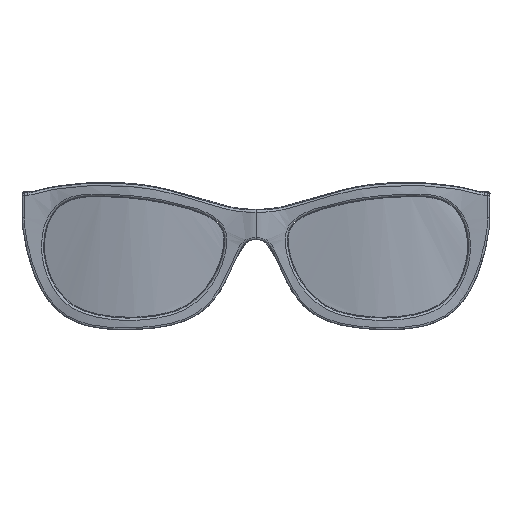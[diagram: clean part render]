
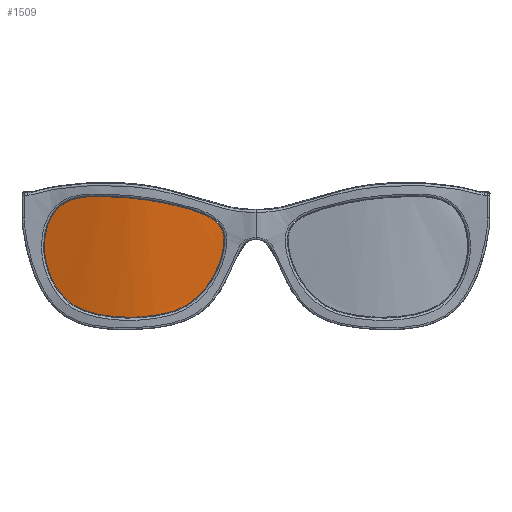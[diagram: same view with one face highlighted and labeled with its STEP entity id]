
A CAD part, front view. The second image highlights one B-rep face of the part: STEP entity #1509.
In plain terms, the highlighted free-form (B-spline) face has degree [3, 1] with [16, 2] control points.
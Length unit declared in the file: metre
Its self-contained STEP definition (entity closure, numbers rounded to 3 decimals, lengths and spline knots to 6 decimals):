
#148=ORIENTED_EDGE('',*,*,#626,.T.);
#626=EDGE_CURVE('',#866,#866,#1006,.T.);
#866=VERTEX_POINT('',#2133);
#1006=B_SPLINE_CURVE_WITH_KNOTS('',3,(#2088,#2089,#2090,#2091,#2092,#2093,
#2094,#2095,#2096,#2097,#2098,#2099,#2100,#2101,#2102,#2103,#2104,#2105,
#2106,#2107,#2108,#2109,#2110,#2111,#2112,#2113,#2114,#2115,#2116,#2117,
#2118,#2119,#2120,#2121,#2122,#2123,#2124,#2125,#2126,#2127,#2128,#2129,
#2130,#2131,#2132),.UNSPECIFIED.,.T.,.F.,(1,1,1,1,1,1,1,1,1,1,1,1,1,1,1,
1,1,1,1,1,1,1,1,1,1,1,1,1,1,1,1,1,1,1,1,1,1,1,1,1,1,1,1,1,1,1,1,1,1),(-0.00858,
-0.00429,-0.002145,0.,0.002145,0.00429,
0.006435,0.00858,0.010725,0.01287,
0.01716,0.02145,0.02574,0.03003,
0.03432,0.03861,0.0429,0.047189,
0.051479,0.053624,0.055769,0.057914,
0.060059,0.062204,0.064349,0.068639,
0.072929,0.075074,0.077219,0.081509,
0.083654,0.085799,0.090089,0.094379,
0.098669,0.102959,0.107249,0.111539,
0.115829,0.120119,0.122264,0.124409,
0.128699,0.132989,0.135133,0.137278,
0.139423,0.141568,0.143713),.UNSPECIFIED.);
#1210=EDGE_LOOP('',(#148));
#1340=FACE_BOUND('',#1210,.T.);
#1469=B_SPLINE_SURFACE_WITH_KNOTS('',3,1,((#2179,#2180),(#2181,#2182),(#2183,
#2184),(#2185,#2186),(#2187,#2188),(#2189,#2190),(#2191,#2192),(#2193,#2194),
(#2195,#2196),(#2197,#2198),(#2199,#2200),(#2201,#2202),(#2203,#2204),(#2205,
#2206),(#2207,#2208),(#2209,#2210)),.SURF_OF_LINEAR_EXTRUSION.,.F.,.F.,
 .F.,(4,1,1,1,1,1,1,1,1,1,1,1,1,4),(2,2),(0.140021,0.230871,
0.321721,0.367147,0.412572,0.457997,
0.503422,0.594272,0.639697,0.685123,
0.730548,0.775973,0.821398,0.866823),
(0.,1.),.UNSPECIFIED.);
#1509=ADVANCED_FACE('',(#1340),#1469,.F.);
#2088=CARTESIAN_POINT('',(-0.009371,0.002476,-0.003452));
#2089=CARTESIAN_POINT('',(-0.009037,0.002254,-0.001274));
#2090=CARTESIAN_POINT('',(-0.008977,0.002031,0.000854));
#2091=CARTESIAN_POINT('',(-0.009467,0.001798,0.00299));
#2092=CARTESIAN_POINT('',(-0.010731,0.001558,0.004783));
#2093=CARTESIAN_POINT('',(-0.012484,0.001298,0.006073));
#2094=CARTESIAN_POINT('',(-0.014363,0.001021,0.007061));
#2095=CARTESIAN_POINT('',(-0.017005,0.000632,0.008145));
#2096=CARTESIAN_POINT('',(-0.020406,0.000161,0.009178));
#2097=CARTESIAN_POINT('',(-0.024531,-0.000341,0.010132));
#2098=CARTESIAN_POINT('',(-0.028704,-0.000733,0.010914));
#2099=CARTESIAN_POINT('',(-0.032922,-0.000878,0.011512));
#2100=CARTESIAN_POINT('',(-0.037223,-0.000614,0.011921));
#2101=CARTESIAN_POINT('',(-0.041509,-0.000003,0.012157));
#2102=CARTESIAN_POINT('',(-0.045795,0.000708,0.012245));
#2103=CARTESIAN_POINT('',(-0.049987,0.001578,0.011866));
#2104=CARTESIAN_POINT('',(-0.053314,0.002697,0.01074));
#2105=CARTESIAN_POINT('',(-0.05554,0.003502,0.008988));
#2106=CARTESIAN_POINT('',(-0.056883,0.003974,0.007347));
#2107=CARTESIAN_POINT('',(-0.057939,0.00433,0.005449));
#2108=CARTESIAN_POINT('',(-0.058672,0.004611,0.003434));
#2109=CARTESIAN_POINT('',(-0.059145,0.004866,0.001303));
#2110=CARTESIAN_POINT('',(-0.059437,0.005179,-0.001537));
#2111=CARTESIAN_POINT('',(-0.059207,0.005551,-0.005173));
#2112=CARTESIAN_POINT('',(-0.05827,0.005855,-0.008641));
#2113=CARTESIAN_POINT('',(-0.0571,0.00597,-0.011316));
#2114=CARTESIAN_POINT('',(-0.055703,0.005949,-0.013829));
#2115=CARTESIAN_POINT('',(-0.053874,0.005679,-0.01613));
#2116=CARTESIAN_POINT('',(-0.051687,0.005217,-0.017912));
#2117=CARTESIAN_POINT('',(-0.049214,0.004717,-0.019383));
#2118=CARTESIAN_POINT('',(-0.045846,0.004164,-0.020569));
#2119=CARTESIAN_POINT('',(-0.041606,0.003539,-0.021384));
#2120=CARTESIAN_POINT('',(-0.037352,0.002942,-0.02176));
#2121=CARTESIAN_POINT('',(-0.033072,0.002617,-0.021726));
#2122=CARTESIAN_POINT('',(-0.028726,0.002647,-0.021281));
#2123=CARTESIAN_POINT('',(-0.024472,0.002882,-0.020482));
#2124=CARTESIAN_POINT('',(-0.020339,0.003128,-0.018976));
#2125=CARTESIAN_POINT('',(-0.017367,0.003225,-0.016906));
#2126=CARTESIAN_POINT('',(-0.015284,0.003229,-0.014857));
#2127=CARTESIAN_POINT('',(-0.013437,0.003183,-0.012655));
#2128=CARTESIAN_POINT('',(-0.011481,0.003022,-0.009568));
#2129=CARTESIAN_POINT('',(-0.010101,0.002745,-0.00624));
#2130=CARTESIAN_POINT('',(-0.009371,0.002476,-0.003452));
#2131=CARTESIAN_POINT('',(-0.009037,0.002254,-0.001274));
#2132=CARTESIAN_POINT('',(-0.008977,0.002031,0.000854));
#2133=CARTESIAN_POINT('',(-0.009083,0.002254,-0.001283));
#2179=CARTESIAN_POINT('',(-0.008501,0.004451,-0.022121));
#2180=CARTESIAN_POINT('',(-0.008501,0.000823,0.012404));
#2181=CARTESIAN_POINT('',(-0.010948,0.004442,-0.022121));
#2182=CARTESIAN_POINT('',(-0.010948,0.000813,0.012404));
#2183=CARTESIAN_POINT('',(-0.016504,0.00387,-0.022121));
#2184=CARTESIAN_POINT('',(-0.016504,0.000241,0.012403));
#2185=CARTESIAN_POINT('',(-0.023262,0.003147,-0.022121));
#2186=CARTESIAN_POINT('',(-0.023262,-0.000482,0.012404));
#2187=CARTESIAN_POINT('',(-0.028088,0.002785,-0.022121));
#2188=CARTESIAN_POINT('',(-0.028088,-0.000843,0.012404));
#2189=CARTESIAN_POINT('',(-0.031263,0.002678,-0.02212));
#2190=CARTESIAN_POINT('',(-0.031263,-0.00095,0.012404));
#2191=CARTESIAN_POINT('',(-0.034132,0.002739,-0.022121));
#2192=CARTESIAN_POINT('',(-0.034132,-0.00089,0.012404));
#2193=CARTESIAN_POINT('',(-0.037841,0.003036,-0.022121));
#2194=CARTESIAN_POINT('',(-0.037841,-0.000593,0.012403));
#2195=CARTESIAN_POINT('',(-0.041684,0.00363,-0.022122));
#2196=CARTESIAN_POINT('',(-0.041684,0.000001,0.012403));
#2197=CARTESIAN_POINT('',(-0.045781,0.004325,-0.022122));
#2198=CARTESIAN_POINT('',(-0.045781,0.000696,0.012403));
#2199=CARTESIAN_POINT('',(-0.048857,0.004927,-0.022122));
#2200=CARTESIAN_POINT('',(-0.048857,0.001298,0.012402));
#2201=CARTESIAN_POINT('',(-0.051792,0.005673,-0.022124));
#2202=CARTESIAN_POINT('',(-0.051792,0.002045,0.012401));
#2203=CARTESIAN_POINT('',(-0.054587,0.006532,-0.022124));
#2204=CARTESIAN_POINT('',(-0.054587,0.002903,0.012401));
#2205=CARTESIAN_POINT('',(-0.057295,0.007205,-0.022121));
#2206=CARTESIAN_POINT('',(-0.057295,0.003576,0.012403));
#2207=CARTESIAN_POINT('',(-0.058991,0.007331,-0.022121));
#2208=CARTESIAN_POINT('',(-0.058991,0.003702,0.012404));
#2209=CARTESIAN_POINT('',(-0.059799,0.007356,-0.022121));
#2210=CARTESIAN_POINT('',(-0.059799,0.003728,0.012404));
